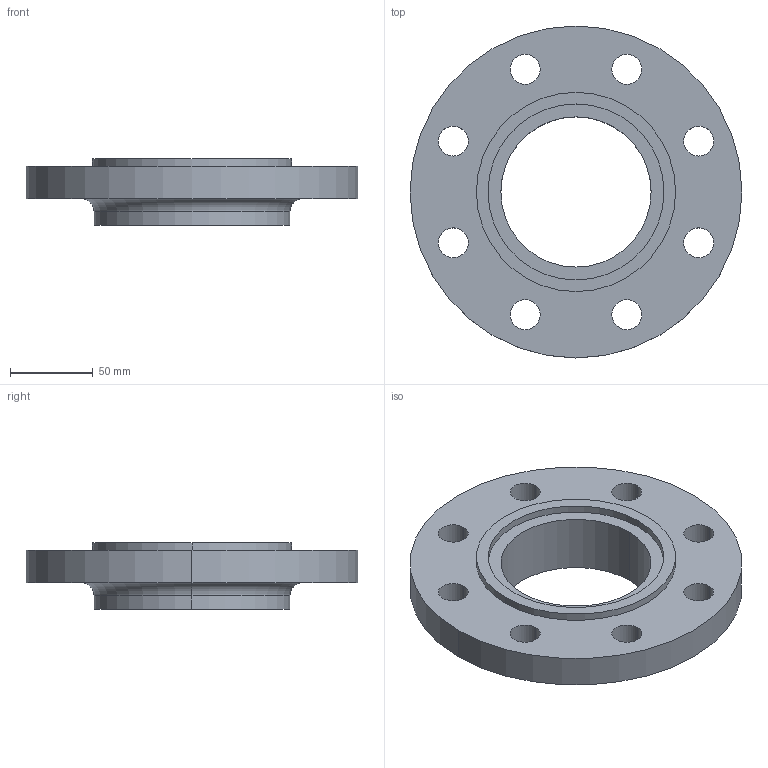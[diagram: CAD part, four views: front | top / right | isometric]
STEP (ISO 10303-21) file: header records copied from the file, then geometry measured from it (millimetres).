
FILE_DESCRIPTION (( 'STEP AP214' ), '1' );
FILE_NAME ('PN40 DN80 Type 12 - Type C Face.STEP', '2019-01-01T19:40:32', ( '' ), ( '' ), 'SwSTEP 2.0', 'SolidWorks 2019', '' );
FILE_SCHEMA (( 'AUTOMOTIVE_DESIGN' ));
Length unit declared in the file: millimetre
Products named in the file (1): PN40 DN80 Type 12 - Type C Face
Bounding box: 200 x 200 x 40 mm (x, y, z)
Volume: 535958.2 mm3; surface area: 84944 mm2
Topology: 1 solids, 1 shells, 33 faces, 82 edges, 54 vertices
Faces by surface type: cylinder 26, plane 5, torus 2
Entity records: 1086 total; most frequent: DIRECTION 206, CARTESIAN_POINT 170, ORIENTED_EDGE 164, AXIS2_PLACEMENT_3D 90, EDGE_CURVE 82, CIRCLE 56, EDGE_LOOP 54, VERTEX_POINT 54
